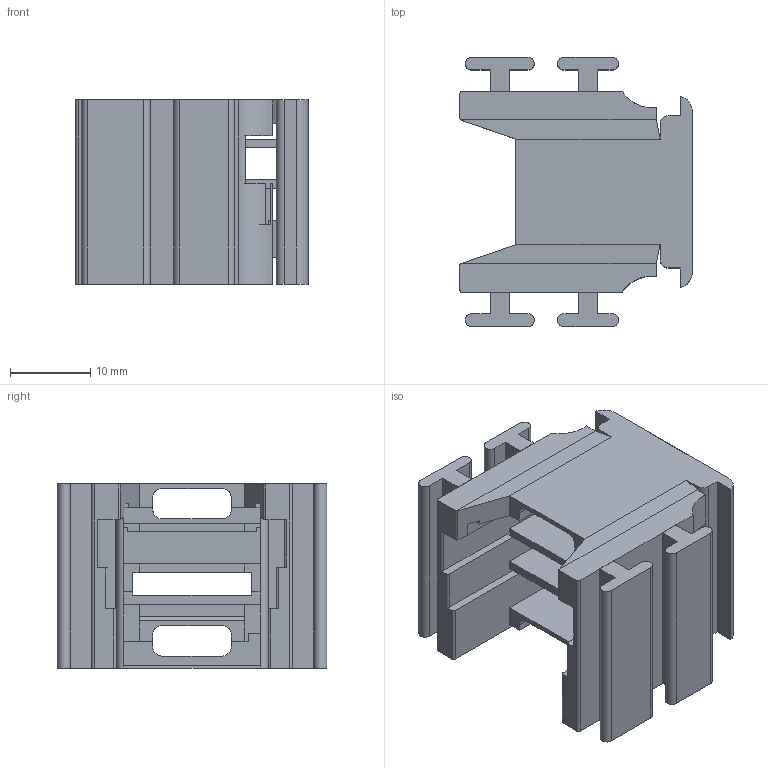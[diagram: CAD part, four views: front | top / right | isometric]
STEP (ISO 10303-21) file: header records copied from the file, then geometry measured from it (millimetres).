
FILE_DESCRIPTION(/* description */ (''),/* implementation_level */ '2;1');
FILE_NAME(/* name */ 'ElectronicsEnclosure.step',/* time_stamp */ '2026-09-30T10:55:30+13:00',/* author */ (''),/* organization */ (''),/* preprocessor_version */ 'ST-DEVELOPER v20.2',/* originating_system */ 'Autodesk Translation Framework v15.15.0.0',/* authorisation */ '');
FILE_SCHEMA (('AUTOMOTIVE_DESIGN { 1 0 10303 214 3 1 1 }'));
Length unit declared in the file: millimetre
Products named in the file (2): 2026-08-23-14-38-27-662; 2026-08-31-10-17-36-752
Assembly tree (1 placements, depth 2):
  2026-08-23-14-38-27-662
    2026-08-31-10-17-36-752
Bounding box: 29 x 33.6 x 23.03 mm (x, y, z)
Volume: 6891.5 mm3; surface area: 8740.9 mm2
Topology: 3 solids, 3 shells, 345 faces, 961 edges, 631 vertices
Faces by surface type: plane 197, bspline 115, cylinder 33
Entity records: 12252 total; most frequent: CARTESIAN_POINT 3977, ORIENTED_EDGE 1922, DIRECTION 1280, EDGE_CURVE 961, LINE 660, VECTOR 660, VERTEX_POINT 631, EDGE_LOOP 360
